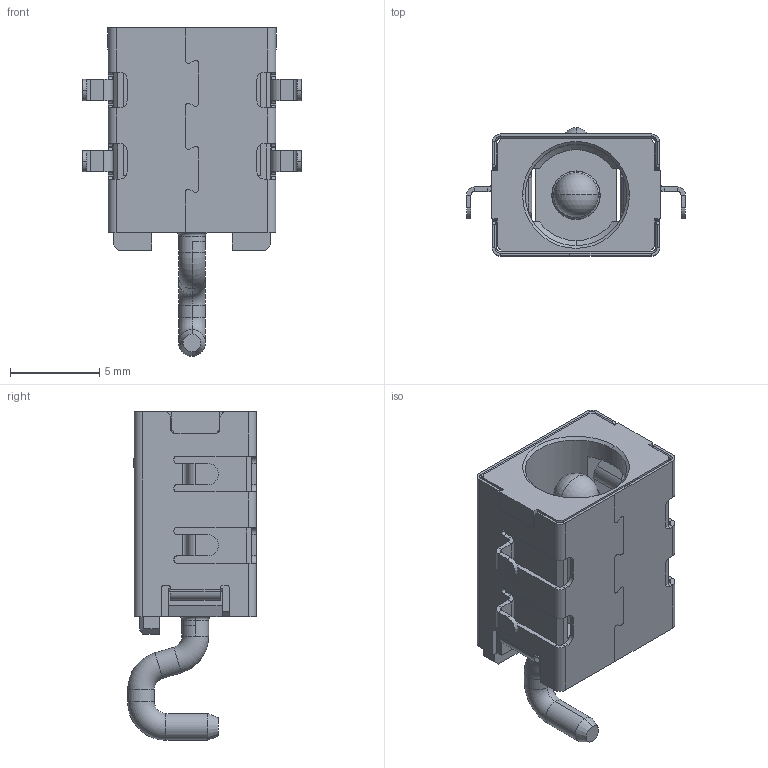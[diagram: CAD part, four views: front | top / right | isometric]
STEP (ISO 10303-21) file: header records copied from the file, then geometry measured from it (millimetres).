
FILE_DESCRIPTION (( 'STEP AP203' ), '1' );
FILE_NAME ('DC-S012A-D025-15A.STEP', '2023-07-14T11:32:03', ( '' ), ( '' ), 'SwSTEP 2.0', 'SolidWorks 2023', '' );
FILE_SCHEMA (( 'CONFIG_CONTROL_DESIGN' ));
Length unit declared in the file: millimetre
Products named in the file (1): DC-S012A-D025-15A
Bounding box: 12.3 x 7.22 x 18.45 mm (x, y, z)
Volume: 431.8 mm3; surface area: 1720 mm2
Topology: 1 solids, 1 shells, 968 faces, 2649 edges, 1668 vertices
Faces by surface type: plane 597, cylinder 249, bspline 78, cone 34, torus 8, sphere 2
Entity records: 34371 total; most frequent: CARTESIAN_POINT 10180, ORIENTED_EDGE 5290, DIRECTION 4670, EDGE_CURVE 2645, VECTOR 1834, LINE 1834, VERTEX_POINT 1666, AXIS2_PLACEMENT_3D 1418
